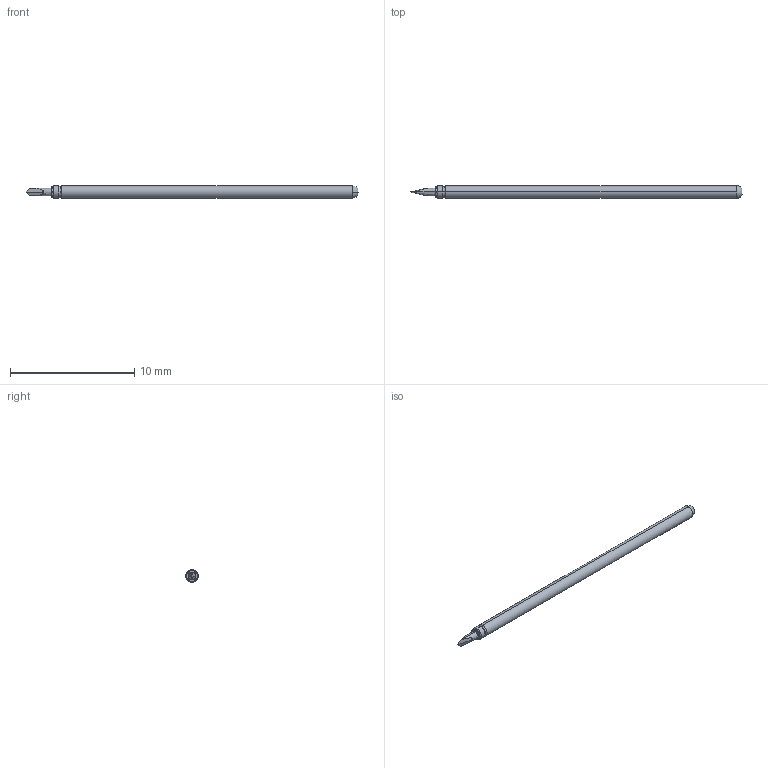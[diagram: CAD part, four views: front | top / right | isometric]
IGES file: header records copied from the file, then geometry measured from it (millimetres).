
Start section: SolidWorks IGES file using analytic representation for surfaces
Global section: file name: Z:\probe solid model mockups\Solidworks models\Parts\LFRE-1I FULL.IGS; native system: SolidWorks 2016; preprocessor: SolidWorks 2016; author: mlee; date: 180927.163233; units: inch
Bounding box: 26.67 x 1.02 x 1.02 mm (x, y, z)
Surface area: 82.5 mm2 (no closed solid volume)
Topology: 0 solids, 0 shells, 22 faces, 158 edges, 158 vertices
Faces by surface type: revolution 12, bspline 10
